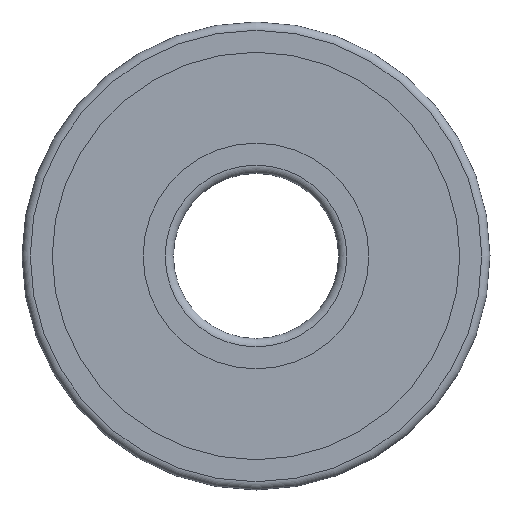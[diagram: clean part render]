
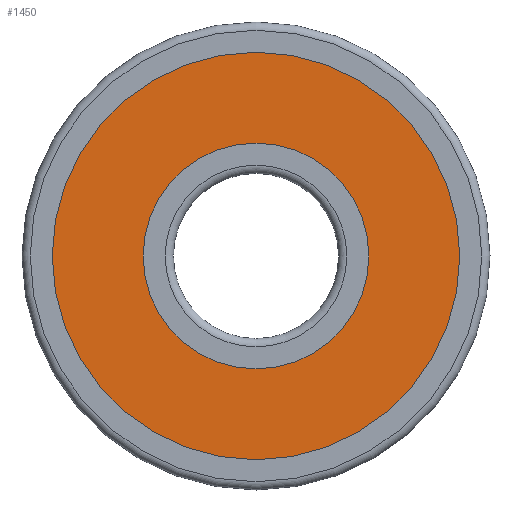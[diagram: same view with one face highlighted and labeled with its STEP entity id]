
A CAD part, left-side view. The second image highlights one B-rep face of the part: STEP entity #1450.
In plain terms, the highlighted planar face has unit normal (-1, 0, 0) as drawn and (1, 0, 0) by its records, which use the part's own axes.
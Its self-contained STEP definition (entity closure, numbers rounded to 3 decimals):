
#1350 = CYLINDRICAL_SURFACE('',#1351,4.1);
#1351 = AXIS2_PLACEMENT_3D('',#1352,#1353,#1354);
#1352 = CARTESIAN_POINT('',(0.697,0.,0.));
#1353 = DIRECTION('',(-1.,-0.,0.));
#1354 = DIRECTION('',(-0.,0.,-1.));
#1385 = CYLINDRICAL_SURFACE('',#1386,7.4);
#1386 = AXIS2_PLACEMENT_3D('',#1387,#1388,#1389);
#1387 = CARTESIAN_POINT('',(0.697,0.,0.));
#1388 = DIRECTION('',(-1.,-0.,0.));
#1389 = DIRECTION('',(-0.,0.,-1.));
#1400 = EDGE_CURVE('',#1401,#1401,#1403,.T.);
#1401 = VERTEX_POINT('',#1402);
#1402 = CARTESIAN_POINT('',(0.697,0.,-4.1));
#1403 = SURFACE_CURVE('',#1404,(#1409,#1416),.PCURVE_S1.);
#1404 = CIRCLE('',#1405,4.1);
#1405 = AXIS2_PLACEMENT_3D('',#1406,#1407,#1408);
#1406 = CARTESIAN_POINT('',(0.697,0.,0.));
#1407 = DIRECTION('',(1.,0.,-0.));
#1408 = DIRECTION('',(-0.,0.,-1.));
#1409 = PCURVE('',#1350,#1410);
#1410 = DEFINITIONAL_REPRESENTATION('',(#1411),#1415);
#1411 = LINE('',#1412,#1413);
#1412 = CARTESIAN_POINT('',(6.283,0.));
#1413 = VECTOR('',#1414,1.);
#1414 = DIRECTION('',(-1.,0.));
#1415 = ( GEOMETRIC_REPRESENTATION_CONTEXT(2) 
PARAMETRIC_REPRESENTATION_CONTEXT() REPRESENTATION_CONTEXT('2D SPACE',''
  ) );
#1416 = PCURVE('',#1417,#1422);
#1417 = PLANE('',#1418);
#1418 = AXIS2_PLACEMENT_3D('',#1419,#1420,#1421);
#1419 = CARTESIAN_POINT('',(0.697,4.1,0.));
#1420 = DIRECTION('',(1.,0.,-0.));
#1421 = DIRECTION('',(-0.,0.,-1.));
#1422 = DEFINITIONAL_REPRESENTATION('',(#1423),#1427);
#1423 = CIRCLE('',#1424,4.1);
#1424 = AXIS2_PLACEMENT_2D('',#1425,#1426);
#1425 = CARTESIAN_POINT('',(0.,-4.1));
#1426 = DIRECTION('',(1.,0.));
#1427 = ( GEOMETRIC_REPRESENTATION_CONTEXT(2) 
PARAMETRIC_REPRESENTATION_CONTEXT() REPRESENTATION_CONTEXT('2D SPACE',''
  ) );
#1450 = ADVANCED_FACE('',(#1451,#1477),#1417,.T.);
#1451 = FACE_BOUND('',#1452,.T.);
#1452 = EDGE_LOOP('',(#1453));
#1453 = ORIENTED_EDGE('',*,*,#1454,.T.);
#1454 = EDGE_CURVE('',#1455,#1455,#1457,.T.);
#1455 = VERTEX_POINT('',#1456);
#1456 = CARTESIAN_POINT('',(0.697,0.,-7.4));
#1457 = SURFACE_CURVE('',#1458,(#1463,#1470),.PCURVE_S1.);
#1458 = CIRCLE('',#1459,7.4);
#1459 = AXIS2_PLACEMENT_3D('',#1460,#1461,#1462);
#1460 = CARTESIAN_POINT('',(0.697,0.,0.));
#1461 = DIRECTION('',(1.,0.,-0.));
#1462 = DIRECTION('',(-0.,0.,-1.));
#1463 = PCURVE('',#1417,#1464);
#1464 = DEFINITIONAL_REPRESENTATION('',(#1465),#1469);
#1465 = CIRCLE('',#1466,7.4);
#1466 = AXIS2_PLACEMENT_2D('',#1467,#1468);
#1467 = CARTESIAN_POINT('',(0.,-4.1));
#1468 = DIRECTION('',(1.,0.));
#1469 = ( GEOMETRIC_REPRESENTATION_CONTEXT(2) 
PARAMETRIC_REPRESENTATION_CONTEXT() REPRESENTATION_CONTEXT('2D SPACE',''
  ) );
#1470 = PCURVE('',#1385,#1471);
#1471 = DEFINITIONAL_REPRESENTATION('',(#1472),#1476);
#1472 = LINE('',#1473,#1474);
#1473 = CARTESIAN_POINT('',(6.283,0.));
#1474 = VECTOR('',#1475,1.);
#1475 = DIRECTION('',(-1.,0.));
#1476 = ( GEOMETRIC_REPRESENTATION_CONTEXT(2) 
PARAMETRIC_REPRESENTATION_CONTEXT() REPRESENTATION_CONTEXT('2D SPACE',''
  ) );
#1477 = FACE_BOUND('',#1478,.T.);
#1478 = EDGE_LOOP('',(#1479));
#1479 = ORIENTED_EDGE('',*,*,#1400,.F.);
